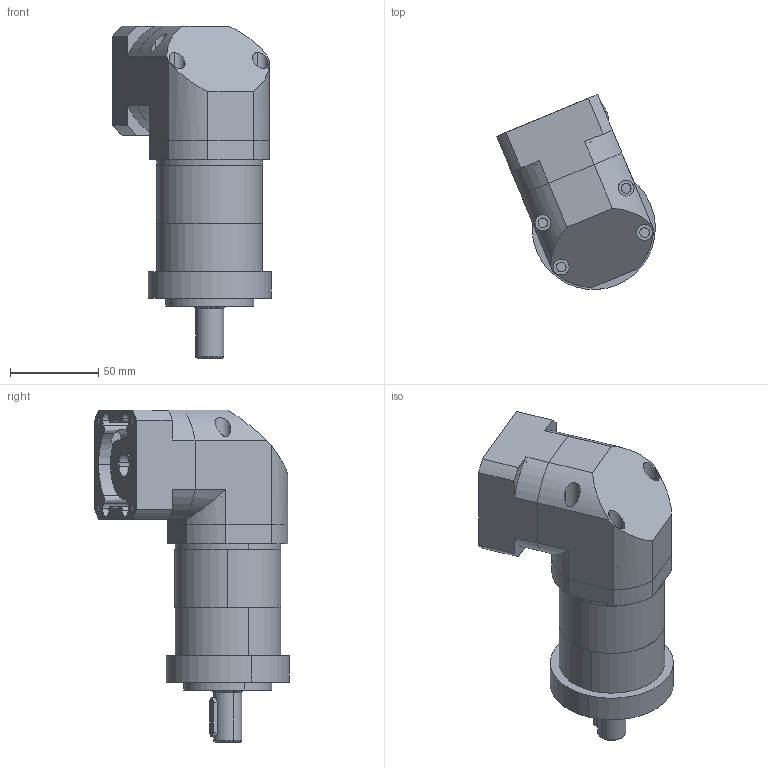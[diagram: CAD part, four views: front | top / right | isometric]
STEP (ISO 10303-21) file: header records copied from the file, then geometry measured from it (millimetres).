
FILE_DESCRIPTION (( 'STEP AP203' ), '1' );
FILE_NAME ('LBER60-(L2)-S2-P2-5070M4.STEP', '2024-11-16T01:28:16', ( '微软用户' ), ( '微软中国' ), 'SwSTEP 2.0', 'SolidWorks 2022', '' );
FILE_SCHEMA (( 'CONFIG_CONTROL_DESIGN' ));
Length unit declared in the file: millimetre
Products named in the file (1): LBER60-(L2)-S2-P2-5070M4
Bounding box: 90.03 x 110.58 x 188.5 mm (x, y, z)
Volume: 574270 mm3; surface area: 94207.2 mm2
Topology: 10 solids, 10 shells, 357 faces, 842 edges, 500 vertices
Faces by surface type: cylinder 130, plane 122, cone 83, bspline 16, torus 6
Entity records: 11747 total; most frequent: CARTESIAN_POINT 3701, DIRECTION 1690, ORIENTED_EDGE 1608, EDGE_CURVE 804, AXIS2_PLACEMENT_3D 673, VERTEX_POINT 500, EDGE_LOOP 410, ADVANCED_FACE 357
